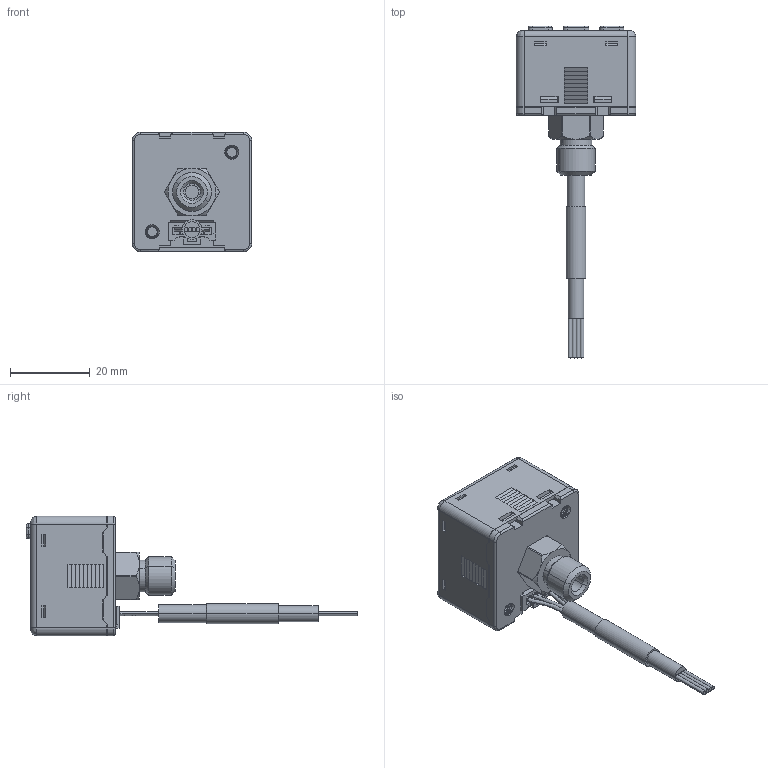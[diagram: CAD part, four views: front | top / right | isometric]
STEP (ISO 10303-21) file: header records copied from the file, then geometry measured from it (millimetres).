
FILE_DESCRIPTION((''),'2;1');
FILE_NAME('KP47_F3','2019-07-08T',('Stark'),(''),'CREO PARAMETRIC BY PTC INC, 2014500','CREO PARAMETRIC BY PTC INC, 2014500','');
FILE_SCHEMA(('CONFIG_CONTROL_DESIGN'));
Length unit declared in the file: millimetre
Products named in the file (1): KP47_F3
Bounding box: 30 x 83.35 x 30 mm (x, y, z)
Volume: 20171.2 mm3; surface area: 7358.1 mm2
Topology: 2 solids, 2 shells, 781 faces, 2000 edges, 1244 vertices
Faces by surface type: plane 586, cylinder 123, bspline 33, cone 24, torus 15
Entity records: 30318 total; most frequent: CARTESIAN_POINT 11681, ORIENTED_EDGE 4000, DIRECTION 3548, EDGE_CURVE 2000, VECTOR 1624, LINE 1624, VERTEX_POINT 1244, AXIS2_PLACEMENT_3D 962
